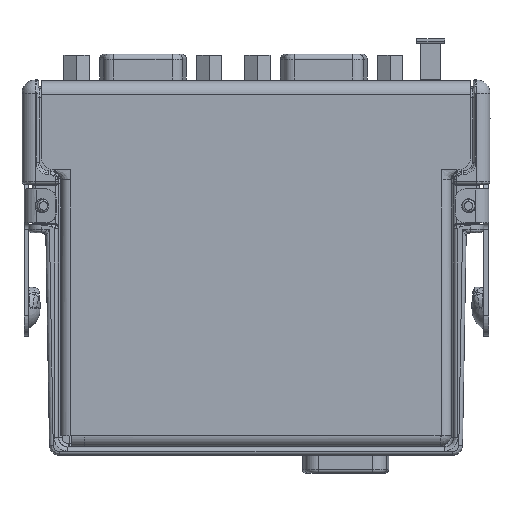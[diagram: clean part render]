
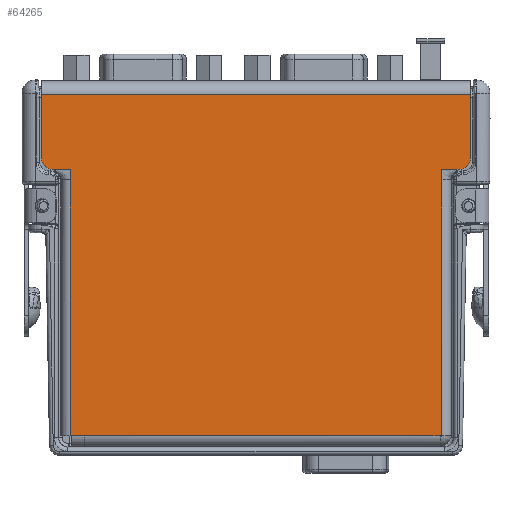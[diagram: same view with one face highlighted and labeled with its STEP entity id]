
A CAD part, left-side view. The second image highlights one B-rep face of the part: STEP entity #64265.
In plain terms, the highlighted planar face has unit normal (-1, 0, 0).
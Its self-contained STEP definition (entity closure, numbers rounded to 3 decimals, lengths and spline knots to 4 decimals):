
#19461=DIRECTION('',(0.,-1.,0.));
#19462=VECTOR('',#19461,3.179);
#19463=CARTESIAN_POINT('',(-0.4475,1.5895,2.6761));
#19464=LINE('',#19463,#19462);
#19470=DIRECTION('',(0.,0.,-1.));
#19471=VECTOR('',#19470,0.476);
#19472=CARTESIAN_POINT('',(-0.4475,1.5895,2.6761));
#19473=LINE('',#19472,#19471);
#19474=DIRECTION('',(0.,0.,1.));
#19475=VECTOR('',#19474,0.476);
#19476=CARTESIAN_POINT('',(-0.4475,-1.5895,2.2001));
#19477=LINE('',#19476,#19475);
#19478=DIRECTION('',(0.,0.,1.));
#19479=VECTOR('',#19478,0.079);
#19480=CARTESIAN_POINT('',(-0.4475,-1.3765,2.0411));
#19481=LINE('',#19480,#19479);
#19482=DIRECTION('',(0.,-1.,0.));
#19483=VECTOR('',#19482,0.01);
#19484=CARTESIAN_POINT('',(-0.4475,-1.3665,0.1461));
#19485=LINE('',#19484,#19483);
#19486=DIRECTION('',(0.,-1.,0.));
#19487=VECTOR('',#19486,0.095);
#19488=CARTESIAN_POINT('',(-0.4475,-1.2715,0.1461));
#19489=LINE('',#19488,#19487);
#19490=DIRECTION('',(0.,-1.,0.));
#19491=VECTOR('',#19490,0.105);
#19492=CARTESIAN_POINT('',(-0.4475,1.3765,0.1461));
#19493=LINE('',#19492,#19491);
#19494=DIRECTION('',(0.,0.,1.));
#19495=VECTOR('',#19494,0.079);
#19496=CARTESIAN_POINT('',(-0.4475,1.3765,2.0411));
#19497=LINE('',#19496,#19495);
#19511=CARTESIAN_POINT('',(-0.4475,1.5095,2.2001));
#19512=DIRECTION('',(-1.,0.,0.));
#19513=DIRECTION('',(0.,1.,0.));
#19514=AXIS2_PLACEMENT_3D('',#19511,#19512,#19513);
#19516=DIRECTION('',(0.,-1.,0.));
#19517=VECTOR('',#19516,0.133);
#19518=CARTESIAN_POINT('',(-0.4475,1.5095,2.1201));
#19519=LINE('',#19518,#19517);
#19536=DIRECTION('',(0.,0.,1.));
#19537=VECTOR('',#19536,1.895);
#19538=CARTESIAN_POINT('',(-0.4475,1.3765,0.1461));
#19539=LINE('',#19538,#19537);
#19589=DIRECTION('',(0.,-1.,0.));
#19590=VECTOR('',#19589,2.543);
#19591=CARTESIAN_POINT('',(-0.4475,1.2715,0.1461));
#19592=LINE('',#19591,#19590);
#19659=DIRECTION('',(0.,0.,1.));
#19660=VECTOR('',#19659,1.895);
#19661=CARTESIAN_POINT('',(-0.4475,-1.3765,0.1461));
#19662=LINE('',#19661,#19660);
#19701=DIRECTION('',(0.,-1.,0.));
#19702=VECTOR('',#19701,0.1115);
#19703=CARTESIAN_POINT('',(-0.4475,-1.3765,2.1201));
#19704=LINE('',#19703,#19702);
#19705=CARTESIAN_POINT('',(-0.4475,-1.488,2.1201));
#19710=DIRECTION('',(0.,-1.,0.));
#19711=VECTOR('',#19710,0.0125);
#19712=CARTESIAN_POINT('',(-0.4475,-1.488,2.1201));
#19713=LINE('',#19712,#19711);
#19714=CARTESIAN_POINT('',(-0.4475,-1.5005,2.1201));
#19737=DIRECTION('',(0.,-1.,0.));
#19738=VECTOR('',#19737,0.009);
#19739=CARTESIAN_POINT('',(-0.4475,-1.5005,2.1201));
#19740=LINE('',#19739,#19738);
#19758=CARTESIAN_POINT('',(-0.4475,-1.5095,2.2001));
#19759=DIRECTION('',(-1.,0.,0.));
#19760=DIRECTION('',(0.,0.,-1.));
#19761=AXIS2_PLACEMENT_3D('',#19758,#19759,#19760);
#36705=CARTESIAN_POINT('',(-0.4475,-1.5895,2.6761));
#36706=VERTEX_POINT('',#36705);
#36707=CARTESIAN_POINT('',(-0.4475,1.5895,2.6761));
#36708=VERTEX_POINT('',#36707);
#36733=CARTESIAN_POINT('',(-0.4475,1.2715,0.1461));
#36734=CARTESIAN_POINT('',(-0.4475,-1.2715,0.1461));
#36735=VERTEX_POINT('',#36733);
#36736=VERTEX_POINT('',#36734);
#36753=CARTESIAN_POINT('',(-0.4475,1.3765,0.1461));
#36754=VERTEX_POINT('',#36753);
#36802=CARTESIAN_POINT('',(-0.4475,1.5095,2.1201));
#36804=VERTEX_POINT('',#36802);
#36807=CARTESIAN_POINT('',(-0.4475,1.5895,2.2001));
#36808=VERTEX_POINT('',#36807);
#36810=CARTESIAN_POINT('',(-0.4475,-1.5895,2.2001));
#36812=VERTEX_POINT('',#36810);
#36815=CARTESIAN_POINT('',(-0.4475,-1.5095,2.1201));
#36816=VERTEX_POINT('',#36815);
#36825=CARTESIAN_POINT('',(-0.4475,-1.3765,0.1461));
#36826=CARTESIAN_POINT('',(-0.4475,-1.3765,2.0411));
#36827=VERTEX_POINT('',#36825);
#36828=VERTEX_POINT('',#36826);
#36847=CARTESIAN_POINT('',(-0.4475,1.3765,2.0411));
#36848=CARTESIAN_POINT('',(-0.4475,1.3765,2.1201));
#36849=VERTEX_POINT('',#36847);
#36850=VERTEX_POINT('',#36848);
#36855=VERTEX_POINT('',#19714);
#36856=VERTEX_POINT('',#19705);
#37043=CARTESIAN_POINT('',(-0.4475,-1.3665,0.1461));
#37044=VERTEX_POINT('',#37043);
#37047=CARTESIAN_POINT('',(-0.4475,-1.3765,2.1201));
#37048=VERTEX_POINT('',#37047);
#64225=CARTESIAN_POINT('',(-0.4475,0.,1.4211));
#64226=DIRECTION('',(-1.,0.,0.));
#64227=DIRECTION('',(0.,1.,0.));
#64228=AXIS2_PLACEMENT_3D('',#64225,#64226,#64227);
#64229=PLANE('',#64228);
#64231=ORIENTED_EDGE('',*,*,#64230,.F.);
#64233=ORIENTED_EDGE('',*,*,#64232,.F.);
#64234=ORIENTED_EDGE('',*,*,#64218,.T.);
#64236=ORIENTED_EDGE('',*,*,#64235,.F.);
#64238=ORIENTED_EDGE('',*,*,#64237,.F.);
#64240=ORIENTED_EDGE('',*,*,#64239,.F.);
#64242=ORIENTED_EDGE('',*,*,#64241,.F.);
#64244=ORIENTED_EDGE('',*,*,#64243,.F.);
#64246=ORIENTED_EDGE('',*,*,#64245,.F.);
#64248=ORIENTED_EDGE('',*,*,#64247,.F.);
#64250=ORIENTED_EDGE('',*,*,#64249,.F.);
#64252=ORIENTED_EDGE('',*,*,#64251,.F.);
#64254=ORIENTED_EDGE('',*,*,#64253,.F.);
#64256=ORIENTED_EDGE('',*,*,#64255,.F.);
#64258=ORIENTED_EDGE('',*,*,#64257,.T.);
#64260=ORIENTED_EDGE('',*,*,#64259,.T.);
#64262=ORIENTED_EDGE('',*,*,#64261,.F.);
#64263=EDGE_LOOP('',(#64231,#64233,#64234,#64236,#64238,#64240,#64242,#64244,
#64246,#64248,#64250,#64252,#64254,#64256,#64258,#64260,#64262));
#64264=FACE_OUTER_BOUND('',#64263,.F.);
#64265=ADVANCED_FACE('',(#64264),#64229,.T.);
#19515=CIRCLE('',#19514,0.08);
#19762=CIRCLE('',#19761,0.08);
#64218=EDGE_CURVE('',#36708,#36706,#19464,.T.);
#64230=EDGE_CURVE('',#36808,#36804,#19515,.T.);
#64232=EDGE_CURVE('',#36708,#36808,#19473,.T.);
#64235=EDGE_CURVE('',#36812,#36706,#19477,.T.);
#64237=EDGE_CURVE('',#36816,#36812,#19762,.T.);
#64239=EDGE_CURVE('',#36855,#36816,#19740,.T.);
#64241=EDGE_CURVE('',#36856,#36855,#19713,.T.);
#64243=EDGE_CURVE('',#37048,#36856,#19704,.T.);
#64245=EDGE_CURVE('',#36828,#37048,#19481,.T.);
#64247=EDGE_CURVE('',#36827,#36828,#19662,.T.);
#64249=EDGE_CURVE('',#37044,#36827,#19485,.T.);
#64251=EDGE_CURVE('',#36736,#37044,#19489,.T.);
#64253=EDGE_CURVE('',#36735,#36736,#19592,.T.);
#64255=EDGE_CURVE('',#36754,#36735,#19493,.T.);
#64257=EDGE_CURVE('',#36754,#36849,#19539,.T.);
#64259=EDGE_CURVE('',#36849,#36850,#19497,.T.);
#64261=EDGE_CURVE('',#36804,#36850,#19519,.T.);
